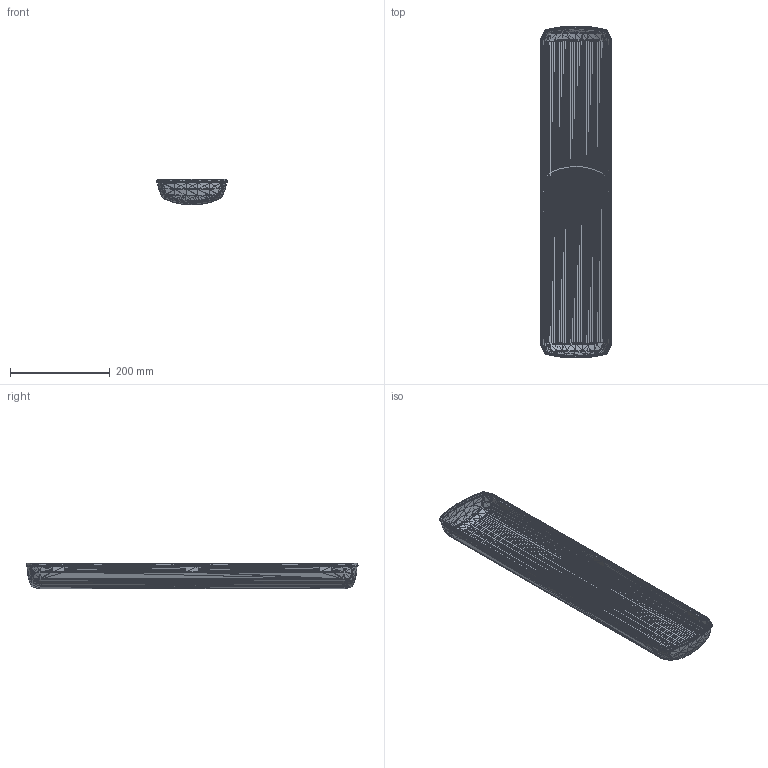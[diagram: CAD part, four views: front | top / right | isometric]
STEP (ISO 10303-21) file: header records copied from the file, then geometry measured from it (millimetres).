
FILE_DESCRIPTION((''),'2;1');
FILE_NAME('051276', '2026-01-23T08:44:00', (''), (''), 'ImageToStl.com STEP Converter','', '');
FILE_SCHEMA(('AUTOMOTIVE_DESIGN_CC2'));
Length unit declared in the file: metre
Products named in the file (1): product0
Bounding box: 142.1 x 664.1 x 52 mm (x, y, z)
Surface area: 281492.9 mm2 (no closed solid volume)
Topology: 0 solids, 19846 shells, 19846 faces, 59538 edges, 9925 vertices
Faces by surface type: plane 19846
Entity records: 456490 total; most frequent: DIRECTION 99232, ORIENTED_EDGE 59538, EDGE_CURVE 59538, LINE 59538, VECTOR 59538, AXIS2_PLACEMENT_3D 19847, FACE_SURFACE 19846, PLANE 19846
